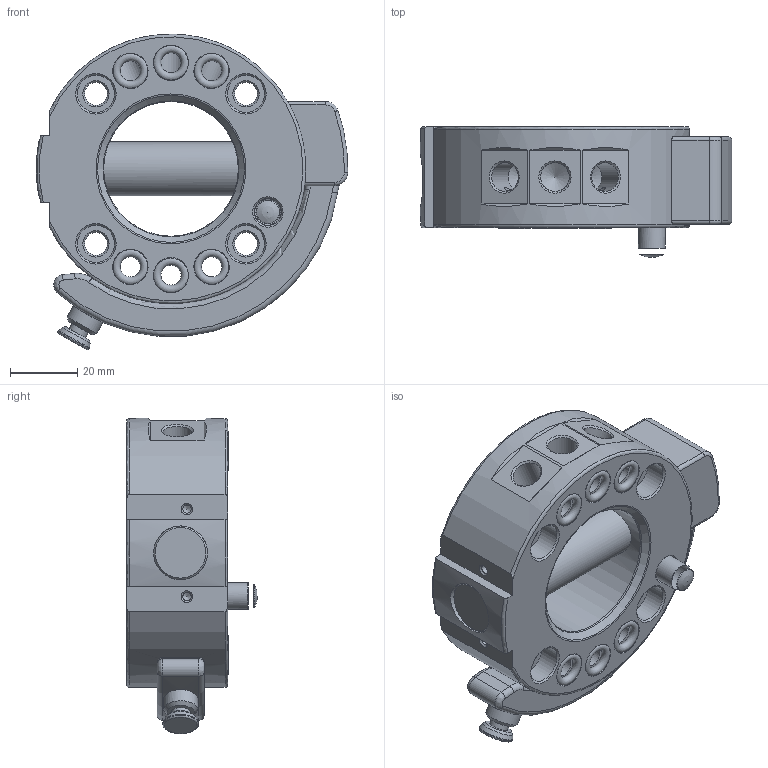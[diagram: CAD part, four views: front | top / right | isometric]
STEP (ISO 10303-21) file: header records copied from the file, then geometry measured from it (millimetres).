
FILE_DESCRIPTION(/* description */ (''),/* implementation_level */ '2;1');
FILE_NAME(/* name */ 'T:\Engineering\Homepage\Homepage 2020\4 3D Step-Daten - Homepage\4 SHW\G-SHW080-2OEP.stp',/* time_stamp */ '2023-06-30T10:54:28+02:00',/* author */ ('ysplieth'),/* organization */ (''),/* preprocessor_version */ 'ST-DEVELOPER v17',/* originating_system */ 'Autodesk Inventor 2018',/* authorisation */ '');
FILE_SCHEMA (('AUTOMOTIVE_DESIGN { 1 0 10303 214 3 1 1 }'));
Length unit declared in the file: millimetre
Products named in the file (1): Bauteil11
Bounding box: 92.49 x 38.8 x 93.67 mm (x, y, z)
Volume: 127403.1 mm3; surface area: 35192 mm2
Topology: 1 solids, 10 shells, 231 faces, 622 edges, 414 vertices
Faces by surface type: cylinder 76, plane 55, torus 49, cone 46, bspline 3, sphere 2
Full cylindrical faces by diameter (mm): 2.459 x2, 3.242 x2, 5.58 x1, 6 x7, 6.2 x1, 6.8 x5, 7 x1, 7.8 x1, 8 x1, 8.566 x3, 10 x1, 10.1 x1, 10.3 x6, 10.6 x1, 10.9 x12, 11 x4, 16 x3, 40 x1
Entity records: 8434 total; most frequent: CARTESIAN_POINT 2003, DIRECTION 1400, ORIENTED_EDGE 1228, AXIS2_PLACEMENT_3D 617, EDGE_CURVE 614, VERTEX_POINT 415, CIRCLE 382, EDGE_LOOP 295
